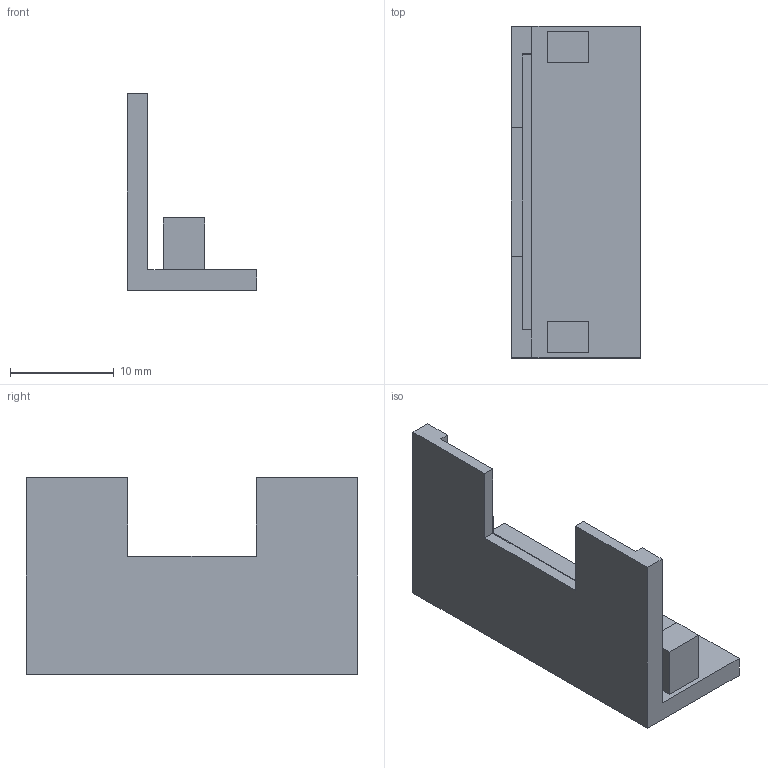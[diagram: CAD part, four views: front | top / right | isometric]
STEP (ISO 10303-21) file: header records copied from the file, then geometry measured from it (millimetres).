
FILE_DESCRIPTION(('Open CASCADE Model'),'2;1');
FILE_NAME('Open CASCADE Shape Model','2026-11-08T17:26:56',('Author'),( 'Open CASCADE'),'Open CASCADE STEP processor 7.8','Open CASCADE 7.8' ,'Unknown');
FILE_SCHEMA(('AUTOMOTIVE_DESIGN { 1 0 10303 214 1 1 1 1 }'));
Length unit declared in the file: millimetre
Products named in the file (1): Open CASCADE STEP translator 7.8 9
Bounding box: 12.5 x 32 x 19 mm (x, y, z)
Volume: 1703.2 mm3; surface area: 2117.4 mm2
Topology: 1 solids, 1 shells, 26 faces, 66 edges, 44 vertices
Faces by surface type: plane 26
Entity records: 1578 total; most frequent: CARTESIAN_POINT 329, DIRECTION 192, LINE 138, VECTOR 138, ORIENTED_EDGE 132, PCURVE 132, DEFINITIONAL_REPRESENTATION 132, EDGE_CURVE 66
